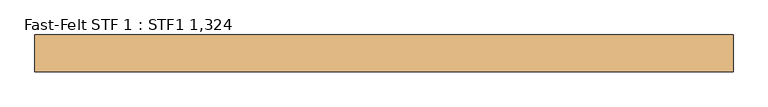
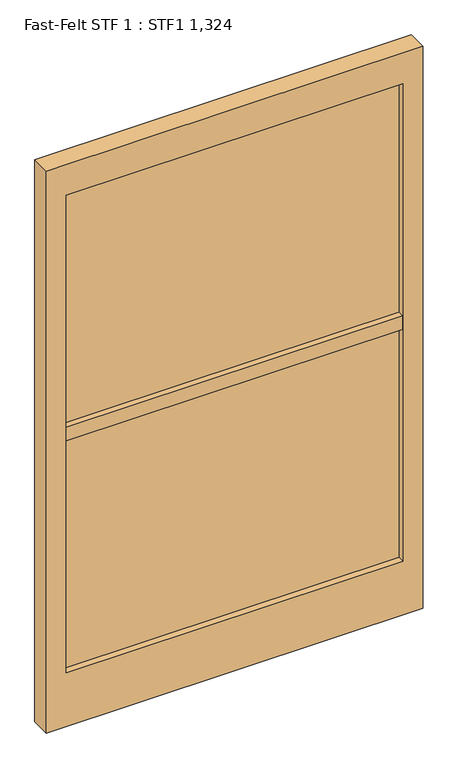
"""IFC4 building model written with IfcOpenShell, lengths in millimetres: door geometry, Fast-Felt STF 1 : STF1 1,324."""

import ifcopenshell
import ifcopenshell.guid

model = None  # the IFC model being written
_history = None  # IfcOwnerHistory: only IFC2X3 demands one
_inside = {}  # id of a spatial element -> (the spatial element, [elements in it])
_under = {}  # id of a project, library or spatial element -> (it, [spatial elements below it])
_declared = {}  # id of a project -> (the project, [libraries it declares])
_typed = {}  # id of a type object -> (the type object, [elements of that type])
_made_of = {}  # id of a material, layer set ... -> (it, [elements and type objects made of it])


def new_model(schema):
    """Start an empty IFC model of exactly this schema.

    Asked for "IFC4X3", IfcOpenShell would pick the latest addendum, in which some entities
    have other attributes; the version numbers below select the first issue.
    IFC2X3 requires an IfcOwnerHistory on every rooted entity: one is made here for all.
    """
    global model, _history
    if schema == "IFC4X3":
        model = ifcopenshell.file(schema_version=(4, 3, 0, 0))
    else:
        model = ifcopenshell.file(schema=schema)
    _inside.clear()
    _under.clear()
    _declared.clear()
    _typed.clear()
    _made_of.clear()
    _history = None
    if model.schema == "IFC2X3":
        org = make("IfcOrganization", Name="unknown")
        user = make(
            "IfcPersonAndOrganization",
            ThePerson=make("IfcPerson", FamilyName="unknown"),
            TheOrganization=org,
        )
        app = make(
            "IfcApplication",
            ApplicationDeveloper=org,
            Version="unknown",
            ApplicationFullName="unknown",
            ApplicationIdentifier="unknown",
        )
        _history = make(
            "IfcOwnerHistory",
            OwningUser=user,
            OwningApplication=app,
            ChangeAction="ADDED",
            CreationDate=0,
        )
    return model


def make(cls, **values):
    """One entity of the class cls with the attributes given. An attribute that is None is left unset."""
    return model.create_entity(
        cls, **{name: value for name, value in values.items() if value is not None}
    )


def rooted(cls, **values):
    """An entity with a GlobalId (a new one), such as an element, a storey or a relation."""
    return make(cls, GlobalId=ifcopenshell.guid.new(), OwnerHistory=_history, **values)


def si_unit(unit_type, name, prefix=None):
    """IfcSIUnit, for example si_unit("LENGTHUNIT", "METRE", prefix="MILLI")."""
    return make("IfcSIUnit", UnitType=unit_type, Prefix=prefix, Name=name)


def assignment(units):
    """IfcUnitAssignment: the units of a project."""
    return None if units is None else make("IfcUnitAssignment", Units=units)


def point(xyz):
    """IfcCartesianPoint."""
    return None if xyz is None else make("IfcCartesianPoint", Coordinates=xyz)


def direction(xyz):
    """IfcDirection."""
    return None if xyz is None else make("IfcDirection", DirectionRatios=xyz)


def frame(location, z_axis=None, x_axis=None):
    """IfcAxis2Placement3D, a coordinate frame: its origin and axes. An axis left out is left unset."""
    return make(
        "IfcAxis2Placement3D",
        Location=point(location),
        Axis=direction(z_axis),
        RefDirection=direction(x_axis),
    )


def origin():
    """The frame at (0, 0, 0) with its axes left unset."""
    return frame((0.0, 0.0, 0.0))


def place(relative_to, where):
    """IfcLocalPlacement: puts the frame where relative to a parent placement (None: the world)."""
    return make(
        "IfcLocalPlacement", PlacementRelTo=relative_to, RelativePlacement=where
    )


def context(
    kind, dimensions, precision=None, world=None, true_north=None, identifier=None
):
    """IfcGeometricRepresentationContext, for example the 3D "Model" context."""
    return make(
        "IfcGeometricRepresentationContext",
        ContextIdentifier=identifier,
        ContextType=kind,
        CoordinateSpaceDimension=dimensions,
        Precision=precision,
        WorldCoordinateSystem=world,
        TrueNorth=true_north,
    )


def project(units=None, contexts=None):
    """IfcProject with its units and contexts."""
    return rooted(
        "IfcProject",
        Name="project",
        RepresentationContexts=contexts,
        UnitsInContext=assignment(units),
    )


def spatial(cls, under=None, at=None, **own):
    """A site, building, storey or space (cls), placed at a placement, below another one or the project."""
    s = rooted(cls, ObjectPlacement=at, **own)
    if under is not None:
        _under.setdefault(under.id(), (under, []))[1].append(s)
    return s


def polyline(points):
    """IfcPolyline through the points."""
    return make("IfcPolyline", Points=[point(p) for p in points])


def outline(outer, holes=None, kind="AREA"):
    """IfcArbitraryClosedProfileDef: a profile drawn as a closed curve; with holes, ...WithVoids."""
    if holes is None:
        return make("IfcArbitraryClosedProfileDef", ProfileType=kind, OuterCurve=outer)
    return make(
        "IfcArbitraryProfileDefWithVoids",
        ProfileType=kind,
        OuterCurve=outer,
        InnerCurves=holes,
    )


def extrude(swept, where, along, depth):
    """IfcExtrudedAreaSolid: the profile swept, set in the frame where, extruded along a direction by depth."""
    return make(
        "IfcExtrudedAreaSolid",
        SweptArea=swept,
        Position=where,
        ExtrudedDirection=direction(along),
        Depth=depth,
    )


def shape(context_of_items, identifier, shape_type, items):
    """IfcShapeRepresentation: the items that make up one representation, for example the "Body"."""
    return make(
        "IfcShapeRepresentation",
        ContextOfItems=context_of_items,
        RepresentationIdentifier=identifier,
        RepresentationType=shape_type,
        Items=items,
    )


def source(mapping_origin, context_of_items, identifier, shape_type, items):
    """IfcRepresentationMap: a shape defined once, which mapped items show again and again."""
    return make(
        "IfcRepresentationMap",
        MappingOrigin=mapping_origin,
        MappedRepresentation=shape(context_of_items, identifier, shape_type, items),
    )


def transform(
    local_origin,
    x_axis=None,
    y_axis=None,
    z_axis=None,
    scale=None,
    scale2=None,
    scale3=None,
    uniform=True,
):
    """IfcCartesianTransformationOperator3D, or its non-uniform kind. x_axis, y_axis, z_axis: its Axis1, 2, 3."""
    if uniform:
        return make(
            "IfcCartesianTransformationOperator3D",
            Axis1=direction(x_axis),
            Axis2=direction(y_axis),
            LocalOrigin=point(local_origin),
            Scale=scale,
            Axis3=direction(z_axis),
        )
    return make(
        "IfcCartesianTransformationOperator3DnonUniform",
        Axis1=direction(x_axis),
        Axis2=direction(y_axis),
        LocalOrigin=point(local_origin),
        Scale=scale,
        Axis3=direction(z_axis),
        Scale2=scale2,
        Scale3=scale3,
    )


def mapped(mapping_source, mapping_target):
    """IfcMappedItem: shows the shape of a source again, moved by a transform."""
    return make(
        "IfcMappedItem", MappingSource=mapping_source, MappingTarget=mapping_target
    )


def made_of(thing, what):
    """Note that an element or type object is made of a material, layer set ...; save() writes the relation."""
    if what is not None:
        _made_of.setdefault(what.id(), (what, []))[1].append(thing)
    return thing


def element(
    cls,
    number,
    at=None,
    inside=None,
    cuts=None,
    type_object=None,
    material=None,
    context=None,
    identifier="Body",
    shape_type=None,
    held_by="IfcProductDefinitionShape",
    body=None,
    shapes=None,
    **own,
):
    """One element of the class cls, such as IfcWall. Its Tag is "e" and its number.

    at: its placement. inside: the storey or other place that contains it. cuts: it is an
    opening in that element (IfcRelVoidsElement). A single representation is given by context,
    identifier, shape_type and body (its items); several are given by shapes. held_by: the class
    of the entity that holds the representations. save() writes the other relations.
    """
    e = rooted(cls, Tag="e%d" % number, ObjectPlacement=at, **own)
    if body is not None:
        shapes = [shape(context, identifier, shape_type, body)]
    if shapes is not None:
        e.Representation = make(held_by, Representations=shapes)
    if inside is not None:
        _inside.setdefault(inside.id(), (inside, []))[1].append(e)
    if cuts is not None:
        rooted(
            "IfcRelVoidsElement", RelatingBuildingElement=cuts, RelatedOpeningElement=e
        )
    if type_object is not None:
        _typed.setdefault(type_object.id(), (type_object, []))[1].append(e)
    return made_of(e, material)


def aggregate(whole, parts):
    """IfcRelAggregates: a whole, such as a stair, and the parts it consists of."""
    return rooted("IfcRelAggregates", RelatingObject=whole, RelatedObjects=parts)


def save(model, path):
    """Write the relations noted so far, then the file.

    IfcRelAggregates (storeys below a building ...), IfcRelContainedInSpatialStructure (elements
    in a storey), IfcRelDefinesByType, IfcRelAssociatesMaterial and IfcRelDeclares: one each for
    every whole, place, type object, material and project.
    """
    for whole, parts in _under.values():
        aggregate(whole, parts)
    for where, things in _inside.values():
        rooted(
            "IfcRelContainedInSpatialStructure",
            RelatedElements=things,
            RelatingStructure=where,
        )
    for kind, things in _typed.values():
        rooted("IfcRelDefinesByType", RelatedObjects=things, RelatingType=kind)
    for what, things in _made_of.values():
        rooted("IfcRelAssociatesMaterial", RelatedObjects=things, RelatingMaterial=what)
    for by, libraries in _declared.values():
        rooted("IfcRelDeclares", RelatingContext=by, RelatedDefinitions=libraries)
    model.write(path)


def fast_felt_stf_1_stf1_1_324_4ac73a34(model_context):
    return source(origin(), model_context, "Body", "SweptSolid", [
        extrude(outline(polyline([(-592.0, -7.0), (592.0, -7.0), (592.0, -31.0), (-592.0, -31.0), (-592.0, -7.0)])), frame((0.0, 0.0, 200.0), z_axis=(0.0, 0.0, 1.0), x_axis=(1.0, 0.0, 0.0)), (0.0, 0.0, 1.0), 861.5),
        extrude(outline(polyline([(-592.0, -7.0), (592.0, -7.0), (592.0, -31.0), (-592.0, -31.0), (-592.0, -7.0)])), frame((0.0, 0.0, 1111.5), z_axis=(0.0, 0.0, 1.0), x_axis=(1.0, 0.0, 0.0)), (0.0, 0.0, 1.0), 861.5),
        extrude(outline(polyline([(0.0, -662.0), (0.0, 662.0), (2088.0, 662.0), (2088.0, -662.0), (0.0, -662.0)]), holes=[polyline([(200.0, 592.0), (200.0, -592.0), (1973.0, -592.0), (1973.0, 592.0), (200.0, 592.0)])]), frame((0.0, -54.0, 0.0), z_axis=(0.0, 1.0, 0.0), x_axis=(0.0, 0.0, 1.0)), (0.0, 0.0, 1.0), 70.0),
        extrude(outline(polyline([(1061.5, -592.0), (1061.5, 592.0), (1086.5, 592.0), (1111.5, 592.0), (1111.5, -592.0), (1061.5, -592.0)])), frame((0.0, -54.0, 0.0), z_axis=(0.0, 1.0, 0.0), x_axis=(0.0, 0.0, 1.0)), (0.0, 0.0, 1.0), 70.0),
    ])


if __name__ == "__main__":
    model = new_model("IFC4")
    model_context = context("Model", 3, world=origin())
    ifc_project = project(units=[si_unit("LENGTHUNIT", "METRE", prefix="MILLI")], contexts=[model_context])
    site = spatial("IfcSite", under=ifc_project)
    building = spatial("IfcBuilding", under=site)
    placement = place(None, origin())
    fast_felt_stf_1_stf1_1_324_shape = fast_felt_stf_1_stf1_1_324_4ac73a34(model_context)
    element("IfcDoor", 1, ObjectType="Fast-Felt STF 1 : STF1 1,324", at=placement, inside=building, context=model_context, shape_type="MappedRepresentation", body=[
        mapped(fast_felt_stf_1_stf1_1_324_shape, transform((0.0, 0.0, 0.0), x_axis=(1.0, 0.0, 0.0), y_axis=(0.0, 1.0, 0.0), z_axis=(0.0, 0.0, 1.0))),
    ])
    save(model, "model.ifc")
